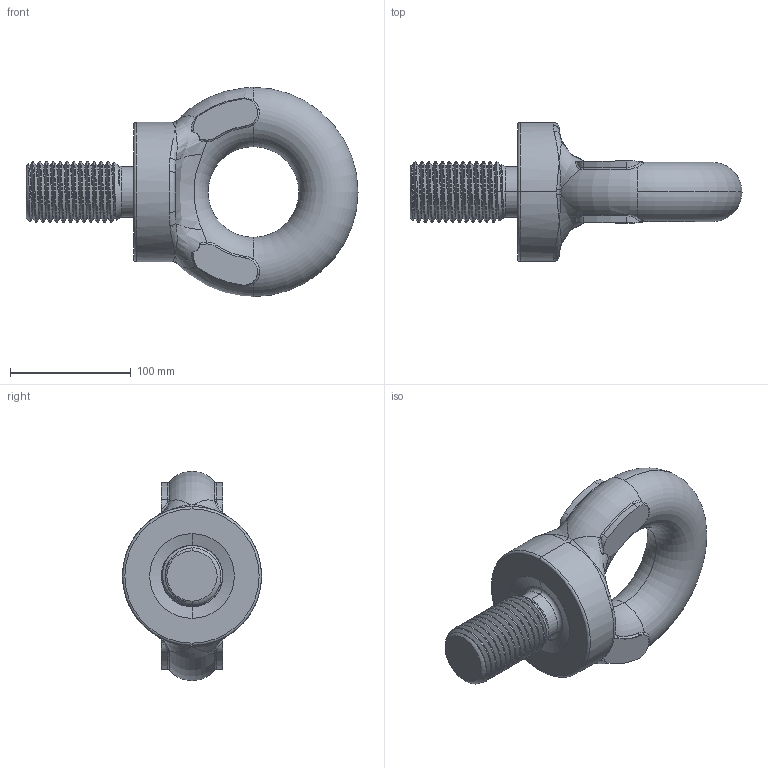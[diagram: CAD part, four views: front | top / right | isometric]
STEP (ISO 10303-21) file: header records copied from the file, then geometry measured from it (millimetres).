
FILE_DESCRIPTION (( 'STEP AP203' ), '1' );
FILE_NAME ('EBU2000.STEP', '2014-03-07T03:22:31', ( '' ), ( '' ), 'SwSTEP 2.0', 'SolidWorks 2012', '' );
FILE_SCHEMA (( 'CONFIG_CONTROL_DESIGN' ));
Length unit declared in the file: millimetre
Products named in the file (1): EBU2000
Bounding box: 274.5 x 115 x 173 mm (x, y, z)
Volume: 1217960.2 mm3; surface area: 101530.4 mm2
Topology: 1 solids, 1 shells, 141 faces, 370 edges, 222 vertices
Faces by surface type: cylinder 54, bspline 51, torus 23, plane 8, cone 5
Entity records: 11811 total; most frequent: CARTESIAN_POINT 8826, ORIENTED_EDGE 724, DIRECTION 496, EDGE_CURVE 362, AXIS2_PLACEMENT_3D 223, VERTEX_POINT 222, EDGE_LOOP 142, ADVANCED_FACE 141
